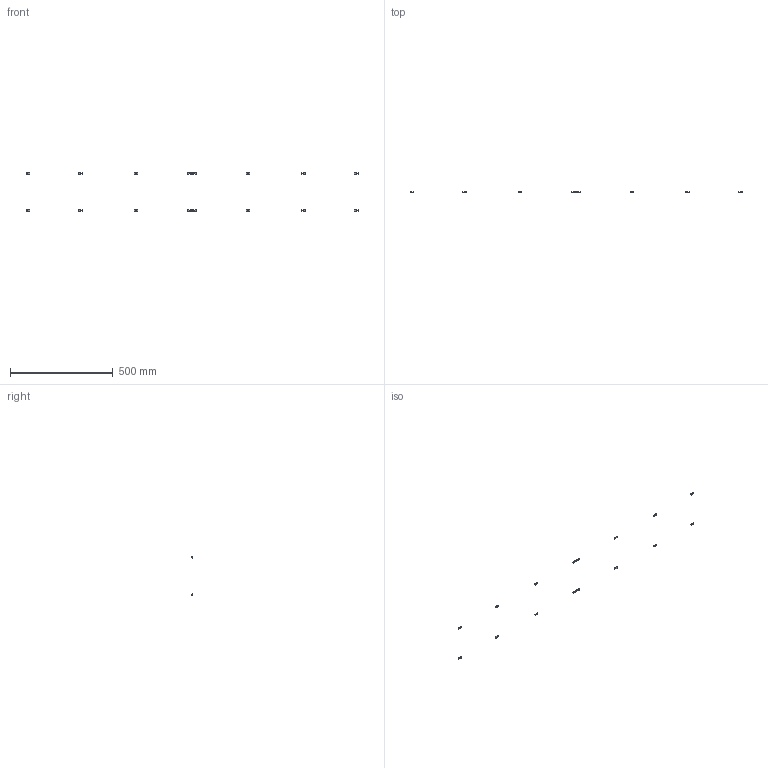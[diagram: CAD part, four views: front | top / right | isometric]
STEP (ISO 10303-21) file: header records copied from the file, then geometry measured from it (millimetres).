
FILE_DESCRIPTION(/* description */ (''),/* implementation_level */ '2;1');
FILE_NAME(/* name */ '14.frame-panels#14.2#HNTPZ5-5',/* time_stamp */ '2014-12-01T20:20:05+01:00',/* author */ (''),/* organization */ (''),/* preprocessor_version */ 'ST-DEVELOPER v14',/* originating_system */ '',/* authorisation */ '');
FILE_SCHEMA (('AUTOMOTIVE_DESIGN'));
Length unit declared in the file: millimetre
Products named in the file (2): Document; nut tslot, post, M5
Assembly tree (8 placements, depth 2):
  Document
    nut tslot, post, M5  x8
Bounding box: 1612 x 3.8 x 188.3 mm (x, y, z)
Volume: 5040.2 mm3; surface area: 6712.1 mm2
Topology: 16 solids, 16 shells, 208 faces, 576 edges, 384 vertices
Faces by surface type: plane 176, bspline 32
Entity records: 8673 total; most frequent: CARTESIAN_POINT 4115, B_SPLINE_CURVE_WITH_KNOTS 900, ORIENTED_EDGE 648, PCURVE 648, DEFINITIONAL_REPRESENTATION 648, SURFACE_CURVE 324, EDGE_CURVE 324, VERTEX_POINT 216
